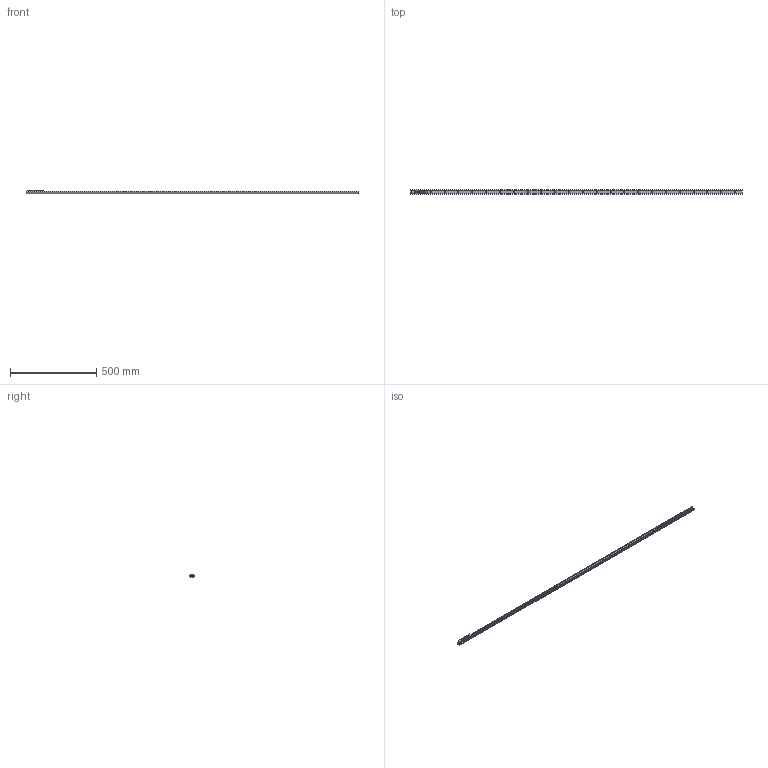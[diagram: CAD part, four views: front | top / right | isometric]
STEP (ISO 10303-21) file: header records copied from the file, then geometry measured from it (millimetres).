
FILE_DESCRIPTION( ( 'STEP AP214' ), '1' );
FILE_NAME( 'p:/temp/worker_23/temp/exporttempdir_82112_91_hCgqG/format_1/TEN26-1920-CEN26-92.stp', '2020-05-08T18:51:55', ( 'License CC BY-ND 4.0' ), ( 'CADENAS' ), ' ', 'PARTsolutions', ' ' );
FILE_SCHEMA( ( 'AUTOMOTIVE_DESIGN { 1 0 10303 214 1 1 1 1 }' ) );
Length unit declared in the file: millimetre
Products named in the file (6): TEN26-1920-CEN26-92; _TEN 26-1920; _CEN26-92_1; _RLN26(11.2_M5); _RLA26(11.2_M5); _LAN-26
Assembly tree (8 placements, depth 2):
  TEN26-1920-CEN26-92
    _TEN 26-1920
    _CEN26-92_1
    _RLN26(11.2_M5)  x2
    _RLA26(11.2_M5)
    _LAN-26  x3
Bounding box: 1920 x 26 x 22 mm (x, y, z)
Volume: 211683.9 mm3; surface area: 178829.1 mm2
Topology: 8 solids, 8 shells, 257 faces, 573 edges, 359 vertices
Faces by surface type: plane 131, cylinder 93, cone 24, bspline 9
Full cylindrical faces by diameter (mm): 2.5 x2, 4.134 x5, 4.5 x3, 5 x6, 6.5 x24, 9.3 x3, 11.2 x6, 11.6 x6, 15.7 x6, 16.7 x6
Entity records: 6266 total; most frequent: CARTESIAN_POINT 905, DIRECTION 856, ORIENTED_EDGE 630, AXIS2_PLACEMENT_3D 364, EDGE_LOOP 328, EDGE_CURVE 315, VERTEX_POINT 245, FACE_OUTER_BOUND 232
